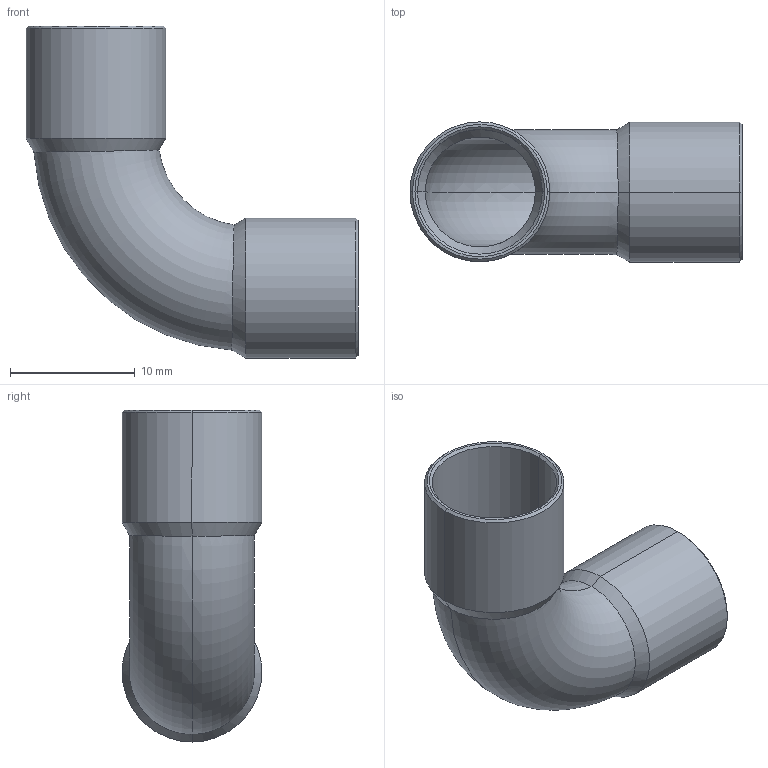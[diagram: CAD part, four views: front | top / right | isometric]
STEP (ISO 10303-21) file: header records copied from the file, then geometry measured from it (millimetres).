
FILE_DESCRIPTION((''),'2;1');
FILE_NAME('D:\5002\15002a10.stp','2005-10-04T08:38:11',('Kris'),(''),'Autodesk Inventor 8','Autodesk Inventor 8','');
FILE_SCHEMA(('AUTOMOTIVE_DESIGN { 1 0 10303 214 1 1 1 1 }'));
Length unit declared in the file: millimetre
Products named in the file (1): 15002a10
Bounding box: 26.6 x 11.2 x 26.6 mm (x, y, z)
Volume: 698.9 mm3; surface area: 2362.9 mm2
Topology: 1 solids, 1 shells, 30 faces, 60 edges, 32 vertices
Faces by surface type: cone 12, bspline 9, torus 4, cylinder 4, plane 1
Entity records: 1027 total; most frequent: CARTESIAN_POINT 414, DIRECTION 124, ORIENTED_EDGE 120, EDGE_CURVE 60, AXIS2_PLACEMENT_3D 50, VERTEX_POINT 32, EDGE_LOOP 32, FACE_OUTER_BOUND 30
